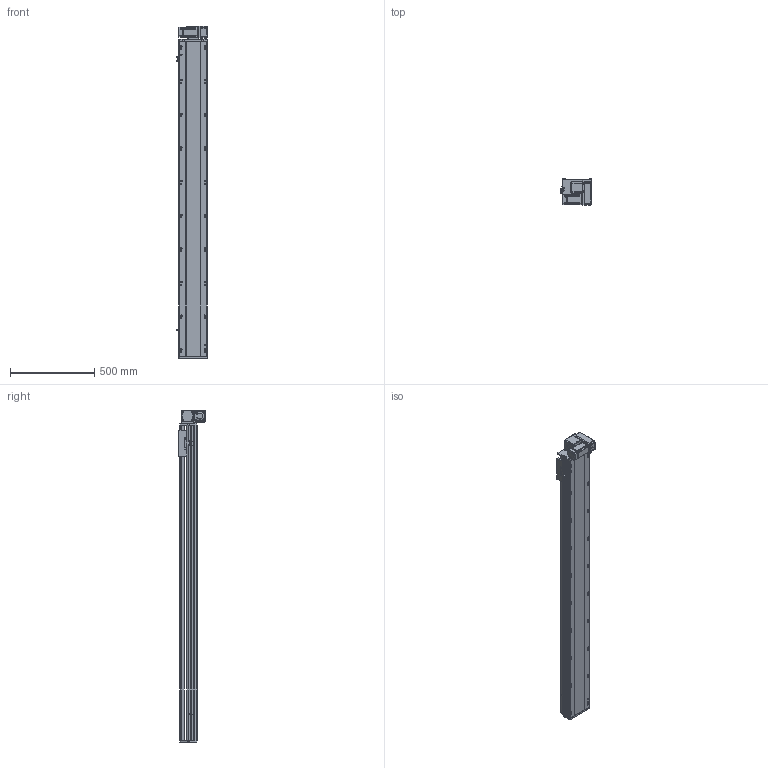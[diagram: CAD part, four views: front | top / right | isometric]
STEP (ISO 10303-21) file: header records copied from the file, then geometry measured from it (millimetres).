
FILE_DESCRIPTION (( 'STEP AP214' ), '1' );
FILE_NAME ('RTB17S-XX-1600-RM-M40-C4.STEP', '2025-12-11T08:21:16', ( '' ), ( '' ), 'SwSTEP 2.0', 'SolidWorks 2018', '' );
FILE_SCHEMA (( 'AUTOMOTIVE_DESIGN' ));
Length unit declared in the file: millimetre
Products named in the file (14): RTB14-L-017P^RTB17S-RM-々湍釱蚾饜-400W_RTB17S-XX-XX-RM-M40-C4; RTB14-L-005P--轴承塑胶压盖^RTB17S-RM-皮带座装配-400W_RTB17S-XX-XX-RM-M40-C4; RTB17S-XX-1600-RM-M40-C4; RTH13-BL-012覜茼え俋离^RTB17S-XX-XX-RM-M40-C4; OMRON EE-SX672 传感器^RTB17S-XX-XX-RM-M40-C4; RTB17-R-011菁釱^RTB17S-XX-XX-RM-M40-C4; RTB14-L-018P^RTB17S-RM-々湍釱蚾饜-400W_RTB17S-XX-XX-RM-M40-C4; 400W侜督萇儂^RTB17S-XX-XX-RM-M40-C4; RTB17S-L-007奻裔^RTB17S-XX-XX-RM-M40-C4; RTB17S-RM-々湍釱蚾饜-400W^RTB17S-XX-XX-RM-M40-C4; RTB14-L-008-M20--萇儂啣^RTB17S-RM-々湍釱蚾饜-400W_RTB17S-XX-XX-RM-M40-C4; RTB17S-L-014-T20--々湍釱^RTB17S-RM-々湍釱蚾饜-400W_RTB17S-XX-XX-RM-M40-C4; RTB17S-L-001耜醱啣^RTB17S-XX-XX-RM-M40-C4; RTB17S-L-004佪裝蹟譫蟀諉釱^RTB17S-XX-XX-RM-M40-C4
Assembly tree (16 placements, depth 3):
  RTB17S-XX-1600-RM-M40-C4
    RTB17-R-011菁釱^RTB17S-XX-XX-RM-M40-C4
    RTB17S-L-007奻裔^RTB17S-XX-XX-RM-M40-C4
    OMRON EE-SX672 传感器^RTB17S-XX-XX-RM-M40-C4  x3
    RTB17S-L-001耜醱啣^RTB17S-XX-XX-RM-M40-C4
    400W侜督萇儂^RTB17S-XX-XX-RM-M40-C4
    RTB17S-L-004佪裝蹟譫蟀諉釱^RTB17S-XX-XX-RM-M40-C4
    RTH13-BL-012覜茼え俋离^RTB17S-XX-XX-RM-M40-C4
    RTB17S-RM-々湍釱蚾饜-400W^RTB17S-XX-XX-RM-M40-C4
      RTB17S-L-014-T20--々湍釱^RTB17S-RM-々湍釱蚾饜-400W_RTB17S-XX-XX-RM-M40-C4
      RTB14-L-005P--轴承塑胶压盖^RTB17S-RM-皮带座装配-400W_RTB17S-XX-XX-RM-M40-C4
      RTB14-L-008-M20--萇儂啣^RTB17S-RM-々湍釱蚾饜-400W_RTB17S-XX-XX-RM-M40-C4
      RTB14-L-017P^RTB17S-RM-々湍釱蚾饜-400W_RTB17S-XX-XX-RM-M40-C4  x2
      RTB14-L-018P^RTB17S-RM-々湍釱蚾饜-400W_RTB17S-XX-XX-RM-M40-C4
Bounding box: 183.5 x 156.5 x 1972.5 mm (x, y, z)
Volume: 17269930.2 mm3; surface area: 2030740.4 mm2
Topology: 15 solids, 15 shells, 2253 faces, 6249 edges, 4077 vertices
Faces by surface type: plane 1074, cylinder 731, bspline 301, cone 139, torus 8
Entity records: 64937 total; most frequent: CARTESIAN_POINT 18254, ORIENTED_EDGE 9342, DIRECTION 8666, EDGE_CURVE 4671, VERTEX_POINT 3065, AXIS2_PLACEMENT_3D 2995, VECTOR 2676, LINE 2676
